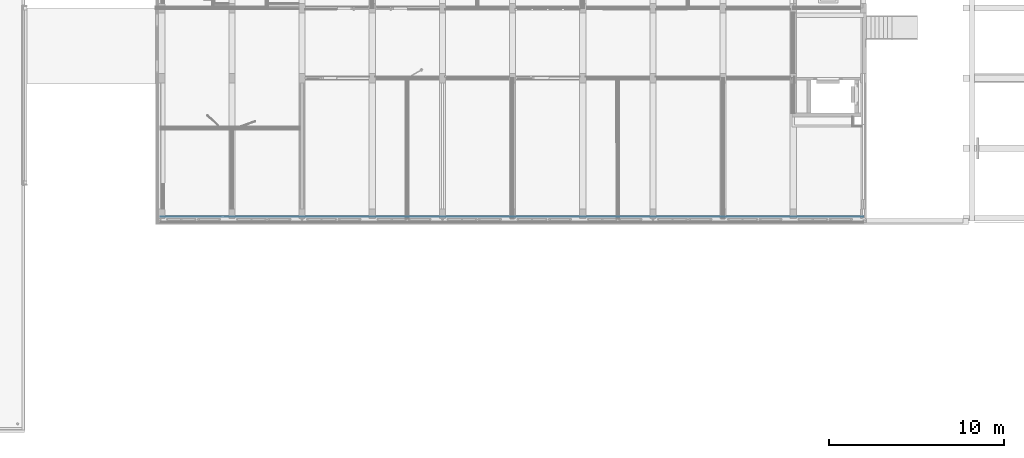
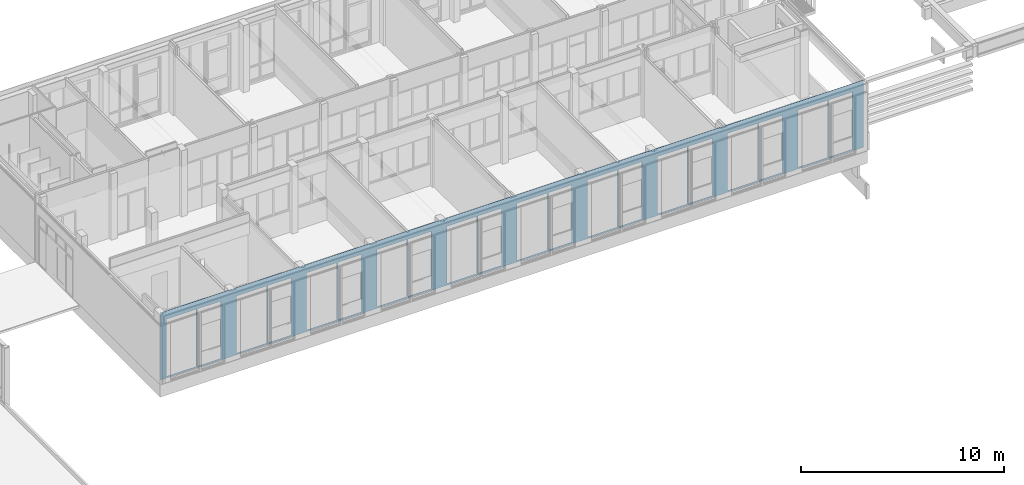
# One storey, part 30 of 54: 1 building element part, 20 openings, 1 element without a shape of its own.
"""IFC2X3 building model written with IfcOpenShell, lengths in millimetres."""

from ifc_helpers import new_model, entity, si_unit, converted_unit, derived_unit, money_unit, direction, frame, origin_with_axes, place, context, subcontext, project, spatial, faceted_brep, material, type_object, element, aggregate, save


model = new_model("IFC2X3")

# Units and contexts
model_context = context("Model", 3, precision=0.01, world=origin_with_axes(), true_north=direction((0.0, 1.0)))
body_context = subcontext(model_context, "Body", "Model", "MODEL_VIEW")
ifc_project = project(units=[si_unit("LENGTHUNIT", "METRE", prefix="MILLI"), si_unit("AREAUNIT", "SQUARE_METRE"), si_unit("VOLUMEUNIT", "CUBIC_METRE"), converted_unit("PLANEANGLEUNIT", "DEGREE", entity("IfcPlaneAngleMeasure", 0.0174532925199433), si_unit("PLANEANGLEUNIT", "RADIAN"), dimensions=[0, 0, 0, 0, 0, 0, 0]), money_unit("EUR"), converted_unit("TIMEUNIT", "Year", entity("IfcTimeMeasure", 31557600.0), si_unit("TIMEUNIT", "SECOND"), dimensions=[0, 0, 1, 0, 0, 0, 0]), si_unit("MASSUNIT", "GRAM", prefix="KILO"), si_unit("THERMODYNAMICTEMPERATUREUNIT", "DEGREE_CELSIUS"), si_unit("LUMINOUSINTENSITYUNIT", "LUMEN"), si_unit("ENERGYUNIT", "JOULE", prefix="MEGA"), derived_unit("THERMALCONDUCTANCEUNIT", [(si_unit("POWERUNIT", "WATT"), 1), (si_unit("LENGTHUNIT", "METRE"), -1), (si_unit("THERMODYNAMICTEMPERATUREUNIT", "KELVIN"), -1)]), derived_unit("SPECIFICHEATCAPACITYUNIT", [(si_unit("ENERGYUNIT", "JOULE"), 1), (si_unit("MASSUNIT", "GRAM", prefix="KILO"), -1), (si_unit("THERMODYNAMICTEMPERATUREUNIT", "KELVIN"), -1)]), derived_unit("MASSDENSITYUNIT", [(si_unit("MASSUNIT", "GRAM", prefix="KILO"), 1), (si_unit("VOLUMEUNIT", "CUBIC_METRE"), -1)])], contexts=[model_context])

# Site, building, storey
site_placement = place(None, origin_with_axes())
site = spatial("IfcSite", under=ifc_project, at=site_placement, Name="<site naam>", CompositionType="ELEMENT")
building_placement = place(site_placement, origin_with_axes())
building = spatial("IfcBuilding", under=site, at=building_placement, Name="<Naam gebouw>", CompositionType="ELEMENT")
storey_placement = place(building_placement, frame((0.0, 0.0, 8500.0), z_axis=(0.0, 0.0, 1.0), x_axis=(1.0, 0.0, 0.0)))
storey = spatial("IfcBuildingStorey", under=building, at=storey_placement, Name="02 2e verdieping", CompositionType="ELEMENT", Elevation=8500.0)

# Wall, openings, building element part
wall_type = type_object("IfcWallType", Name="HSB_285 gevelbeplating 420", PredefinedType="NOTDEFINED")
wall_placement = place(storey_placement, frame((52000.00000000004, -298.0000000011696, 0.0), z_axis=(0.0, 0.0, 1.0), x_axis=(-1.0, 0.0, 0.0)))
wall = element("IfcWall", 1, at=wall_placement, inside=storey, type_object=wall_type, Name="21_Binnenwand_HSB_285")
opening_1_placement = place(wall_placement, frame((38888.99998871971, 0.0, 99.99999999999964), z_axis=(0.0, 0.0, 1.0), x_axis=(1.0, 0.0, 0.0)))
element("IfcOpeningElement", 2, at=opening_1_placement, cuts=wall, Name="21_BU-A-22a_305", context=body_context, shape_type="Brep", body=[
    faceted_brep([(-850.9999999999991, -212.9999999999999, 0.0), (-850.9999999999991, -212.9999999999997, 3450.000000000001), (-850.9999999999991, 1.000000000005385, 3450.000000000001), (-850.9999999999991, 1.000000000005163, 0.0), (-850.9999999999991, -421.0000000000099, 0.0), (-850.9999999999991, -421.0000000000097, 3450.000000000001), (850.9999999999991, -212.9999999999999, 3450.000000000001), (851.0000000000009, 1.000000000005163, 3450.000000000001), (851.0000000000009, 1.000000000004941, 0.0), (850.9999999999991, -213.0000000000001, 0.0), (850.9999999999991, -421.00000000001, 0.0), (850.9999999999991, -421.0000000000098, 3450.000000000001)], [[[0, 1, 2, 3]], [[1, 0, 4, 5]], [[1, 6, 7, 2]], [[7, 8, 3, 2]], [[9, 0, 3, 8]], [[0, 9, 10, 4]], [[5, 4, 10, 11]], [[6, 1, 5, 11]], [[6, 9, 8, 7]], [[9, 6, 11, 10]]]),
])
opening_2_placement = place(wall_placement, frame((37298.99999999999, 0.0, 99.99999999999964), z_axis=(0.0, 0.0, 1.0), x_axis=(1.0, 0.0, 0.0)))
element("IfcOpeningElement", 3, at=opening_2_placement, cuts=wall, Name="21_BU-A-22b_305", context=body_context, shape_type="Brep", body=[
    faceted_brep([(-663.0000000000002, -212.9999999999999, 0.0), (-663.0000000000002, -212.9999999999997, 3450.000000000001), (-663.0000000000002, 1.000000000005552, 3450.000000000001), (-663.0000000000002, 1.00000000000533, 0.0), (-663.0000000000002, -421.0000000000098, 0.0), (-663.0000000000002, -421.0000000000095, 3450.000000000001), (663.0000000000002, -212.9999999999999, 3450.000000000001), (663.0000000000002, 1.000000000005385, 3450.000000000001), (663.0000000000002, 1.000000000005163, 0.0), (663.0000000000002, -213.0000000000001, 0.0), (663.0000000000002, -421.0000000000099, 0.0), (663.0000000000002, -421.0000000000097, 3450.000000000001)], [[[0, 1, 2, 3]], [[1, 0, 4, 5]], [[1, 6, 7, 2]], [[7, 8, 3, 2]], [[9, 0, 3, 8]], [[0, 9, 10, 4]], [[5, 4, 10, 11]], [[6, 1, 5, 11]], [[6, 9, 8, 7]], [[9, 6, 11, 10]]]),
])
opening_3_placement = place(wall_placement, frame((33298.99999999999, 0.0, 99.99999999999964), z_axis=(0.0, 0.0, 1.0), x_axis=(1.0, 0.0, 0.0)))
element("IfcOpeningElement", 4, at=opening_3_placement, cuts=wall, Name="21_BU-A-22b_305", context=body_context, shape_type="Brep", body=[
    faceted_brep([(-663.0000000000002, -212.9999999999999, 0.0), (-663.0000000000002, -212.9999999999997, 3450.000000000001), (-663.0000000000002, 1.000000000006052, 3450.000000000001), (-663.0000000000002, 1.00000000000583, 0.0), (-663.0000000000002, -421.0000000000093, 0.0), (-663.0000000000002, -421.000000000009, 3450.000000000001), (663.0000000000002, -212.9999999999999, 3450.000000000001), (663.0000000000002, 1.000000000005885, 3450.000000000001), (663.0000000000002, 1.000000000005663, 0.0), (663.0000000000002, -213.0000000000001, 0.0), (663.0000000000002, -421.0000000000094, 0.0), (663.0000000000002, -421.0000000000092, 3450.000000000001)], [[[0, 1, 2, 3]], [[1, 0, 4, 5]], [[1, 6, 7, 2]], [[7, 8, 3, 2]], [[9, 0, 3, 8]], [[0, 9, 10, 4]], [[5, 4, 10, 11]], [[6, 1, 5, 11]], [[6, 9, 8, 7]], [[9, 6, 11, 10]]]),
])
opening_4_placement = place(wall_placement, frame((34888.99998871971, 0.0, 99.99999999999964), z_axis=(0.0, 0.0, 1.0), x_axis=(1.0, 0.0, 0.0)))
element("IfcOpeningElement", 5, at=opening_4_placement, cuts=wall, Name="21_BU-A-22a_305", context=body_context, shape_type="Brep", body=[
    faceted_brep([(-850.9999999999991, -212.9999999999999, 0.0), (-850.9999999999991, -212.9999999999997, 3450.000000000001), (-850.9999999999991, 1.000000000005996, 3450.000000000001), (-850.9999999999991, 1.000000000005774, 0.0), (-850.9999999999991, -421.0000000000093, 0.0), (-850.9999999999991, -421.0000000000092, 3450.000000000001), (850.9999999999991, -212.9999999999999, 3450.000000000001), (850.9999999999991, 1.000000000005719, 3450.000000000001), (850.9999999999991, 1.000000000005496, 0.0), (850.9999999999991, -213.0000000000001, 0.0), (850.9999999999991, -421.0000000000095, 0.0), (850.9999999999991, -421.0000000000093, 3450.000000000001)], [[[0, 1, 2, 3]], [[1, 0, 4, 5]], [[1, 6, 7, 2]], [[7, 8, 3, 2]], [[9, 0, 3, 8]], [[0, 9, 10, 4]], [[5, 4, 10, 11]], [[6, 1, 5, 11]], [[6, 9, 8, 7]], [[9, 6, 11, 10]]]),
])
opening_5_placement = place(wall_placement, frame((18888.99998871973, 0.0, 99.99999999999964), z_axis=(0.0, 0.0, 1.0), x_axis=(1.0, 0.0, 0.0)))
element("IfcOpeningElement", 6, at=opening_5_placement, cuts=wall, Name="21_BU-A-22a_305", context=body_context, shape_type="Brep", body=[
    faceted_brep([(-850.9999999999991, -212.9999999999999, 0.0), (-850.9999999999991, -212.9999999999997, 3450.000000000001), (-850.9999999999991, 1.000000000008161, 3450.000000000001), (-850.9999999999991, 1.000000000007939, 0.0), (-850.9999999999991, -421.0000000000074, 0.0), (-850.9999999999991, -421.0000000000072, 3450.000000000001), (850.9999999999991, -212.9999999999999, 3450.000000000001), (850.9999999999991, 1.000000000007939, 3450.000000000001), (850.9999999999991, 1.000000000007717, 0.0), (850.9999999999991, -213.0000000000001, 0.0), (850.9999999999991, -421.0000000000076, 0.0), (850.9999999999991, -421.0000000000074, 3450.000000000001)], [[[0, 1, 2, 3]], [[1, 0, 4, 5]], [[1, 6, 7, 2]], [[7, 8, 3, 2]], [[9, 0, 3, 8]], [[0, 9, 10, 4]], [[5, 4, 10, 11]], [[6, 1, 5, 11]], [[6, 9, 8, 7]], [[9, 6, 11, 10]]]),
])
opening_6_placement = place(wall_placement, frame((22888.98053643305, 0.0, 99.99999999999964), z_axis=(0.0, 0.0, 1.0), x_axis=(1.0, 0.0, 0.0)))
element("IfcOpeningElement", 7, at=opening_6_placement, cuts=wall, Name="21_BU-A-22a_305", context=body_context, shape_type="Brep", body=[
    faceted_brep([(-850.9999999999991, -212.9999999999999, 0.0), (-850.9999999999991, -212.9999999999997, 3450.000000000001), (-850.9999999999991, 1.000000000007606, 3450.000000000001), (-850.9999999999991, 1.000000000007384, 0.0), (-850.9999999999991, -421.0000000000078, 0.0), (-850.9999999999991, -421.0000000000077, 3450.000000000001), (850.9999999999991, -212.9999999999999, 3450.000000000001), (850.9999999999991, 1.000000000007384, 3450.000000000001), (850.9999999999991, 1.000000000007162, 0.0), (850.9999999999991, -213.0000000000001, 0.0), (850.9999999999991, -421.0000000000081, 0.0), (850.9999999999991, -421.0000000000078, 3450.000000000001)], [[[0, 1, 2, 3]], [[1, 0, 4, 5]], [[1, 6, 7, 2]], [[7, 8, 3, 2]], [[9, 0, 3, 8]], [[0, 9, 10, 4]], [[5, 4, 10, 11]], [[6, 1, 5, 11]], [[6, 9, 8, 7]], [[9, 6, 11, 10]]]),
])
opening_7_placement = place(wall_placement, frame((17299.00000000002, 0.0, 99.99999999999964), z_axis=(0.0, 0.0, 1.0), x_axis=(1.0, 0.0, 0.0)))
element("IfcOpeningElement", 8, at=opening_7_placement, cuts=wall, Name="21_BU-A-22b_305", context=body_context, shape_type="Brep", body=[
    faceted_brep([(-662.9999999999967, -212.9999999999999, 0.0), (-662.9999999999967, -212.9999999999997, 3450.000000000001), (-662.9999999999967, 1.000000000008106, 3450.000000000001), (-662.9999999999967, 1.000000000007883, 0.0), (-662.9999999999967, -421.0000000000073, 0.0), (-662.9999999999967, -421.000000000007, 3450.000000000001), (662.9999999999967, -212.9999999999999, 3450.000000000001), (662.9999999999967, 1.000000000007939, 3450.000000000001), (662.9999999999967, 1.000000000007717, 0.0), (662.9999999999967, -213.0000000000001, 0.0), (662.9999999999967, -421.0000000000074, 0.0), (662.9999999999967, -421.0000000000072, 3450.000000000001)], [[[0, 1, 2, 3]], [[1, 0, 4, 5]], [[1, 6, 7, 2]], [[7, 8, 3, 2]], [[9, 0, 3, 8]], [[0, 9, 10, 4]], [[5, 4, 10, 11]], [[6, 1, 5, 11]], [[6, 9, 8, 7]], [[9, 6, 11, 10]]]),
])
opening_8_placement = place(wall_placement, frame((26888.98052515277, 0.0, 99.99999999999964), z_axis=(0.0, 0.0, 1.0), x_axis=(1.0, 0.0, 0.0)))
element("IfcOpeningElement", 9, at=opening_8_placement, cuts=wall, Name="21_BU-A-22a_305", context=body_context, shape_type="Brep", body=[
    faceted_brep([(-850.9999999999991, -212.9999999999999, 0.0), (-850.9999999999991, -212.9999999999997, 3450.000000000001), (-850.9999999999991, 1.000000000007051, 3450.000000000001), (-850.9999999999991, 1.000000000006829, 0.0), (-850.9999999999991, -421.0000000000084, 0.0), (-850.9999999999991, -421.0000000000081, 3450.000000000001), (850.9999999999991, -212.9999999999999, 3450.000000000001), (850.9999999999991, 1.000000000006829, 3450.000000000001), (850.9999999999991, 1.000000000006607, 0.0), (850.9999999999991, -213.0000000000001, 0.0), (850.9999999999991, -421.0000000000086, 0.0), (850.9999999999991, -421.0000000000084, 3450.000000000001)], [[[0, 1, 2, 3]], [[1, 0, 4, 5]], [[1, 6, 7, 2]], [[7, 8, 3, 2]], [[9, 0, 3, 8]], [[0, 9, 10, 4]], [[5, 4, 10, 11]], [[6, 1, 5, 11]], [[6, 9, 8, 7]], [[9, 6, 11, 10]]]),
])
opening_9_placement = place(wall_placement, frame((21298.98054771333, 0.0, 99.99999999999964), z_axis=(0.0, 0.0, 1.0), x_axis=(1.0, 0.0, 0.0)))
element("IfcOpeningElement", 10, at=opening_9_placement, cuts=wall, Name="21_BU-A-22b_305", context=body_context, shape_type="Brep", body=[
    faceted_brep([(-663.0000000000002, -212.9999999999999, 0.0), (-663.0000000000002, -212.9999999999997, 3450.000000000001), (-663.0000000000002, 1.000000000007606, 3450.000000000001), (-663.0000000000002, 1.000000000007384, 0.0), (-663.0000000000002, -421.0000000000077, 0.0), (-663.0000000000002, -421.0000000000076, 3450.000000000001), (663.0000000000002, -212.9999999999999, 3450.000000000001), (663.0000000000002, 1.000000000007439, 3450.000000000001), (663.0000000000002, 1.000000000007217, 0.0), (663.0000000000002, -213.0000000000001, 0.0), (663.0000000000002, -421.0000000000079, 0.0), (663.0000000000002, -421.0000000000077, 3450.000000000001)], [[[0, 1, 2, 3]], [[1, 0, 4, 5]], [[1, 6, 7, 2]], [[7, 8, 3, 2]], [[9, 0, 3, 8]], [[0, 9, 10, 4]], [[5, 4, 10, 11]], [[6, 1, 5, 11]], [[6, 9, 8, 7]], [[9, 6, 11, 10]]]),
])
opening_10_placement = place(wall_placement, frame((10889.00000000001, 0.0, 99.99999999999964), z_axis=(0.0, 0.0, 1.0), x_axis=(1.0, 0.0, 0.0)))
element("IfcOpeningElement", 11, at=opening_10_placement, cuts=wall, Name="21_BU-A-22a_305", context=body_context, shape_type="Brep", body=[
    faceted_brep([(-850.9999999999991, -212.9999999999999, 0.0), (-850.9999999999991, -212.9999999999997, 3450.000000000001), (-850.9999999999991, 1.000000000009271, 3450.000000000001), (-850.9999999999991, 1.000000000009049, 0.0), (-850.9999999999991, -421.0000000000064, 0.0), (-850.9999999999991, -421.0000000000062, 3450.000000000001), (850.9999999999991, -212.9999999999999, 3450.000000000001), (850.9999999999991, 1.000000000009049, 3450.000000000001), (850.9999999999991, 1.000000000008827, 0.0), (850.9999999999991, -213.0000000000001, 0.0), (850.9999999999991, -421.0000000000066, 0.0), (850.9999999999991, -421.0000000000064, 3450.000000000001)], [[[0, 1, 2, 3]], [[1, 0, 4, 5]], [[1, 6, 7, 2]], [[7, 8, 3, 2]], [[9, 0, 3, 8]], [[0, 9, 10, 4]], [[5, 4, 10, 11]], [[6, 1, 5, 11]], [[6, 9, 8, 7]], [[9, 6, 11, 10]]]),
])
opening_11_placement = place(wall_placement, frame((25298.98053643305, 0.0, 99.99999999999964), z_axis=(0.0, 0.0, 1.0), x_axis=(1.0, 0.0, 0.0)))
element("IfcOpeningElement", 12, at=opening_11_placement, cuts=wall, Name="21_BU-A-22b_305", context=body_context, shape_type="Brep", body=[
    faceted_brep([(-663.0000000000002, -212.9999999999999, 0.0), (-663.0000000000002, -212.9999999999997, 3450.000000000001), (-663.0000000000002, 1.000000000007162, 3450.000000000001), (-663.0000000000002, 1.00000000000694, 0.0), (-663.0000000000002, -421.0000000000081, 0.0), (-663.0000000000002, -421.000000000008, 3450.000000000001), (663.0000000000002, -212.9999999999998, 3450.000000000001), (663.0000000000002, 1.000000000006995, 3450.000000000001), (663.0000000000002, 1.000000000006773, 0.0), (663.0000000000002, -213.0000000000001, 0.0), (663.0000000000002, -421.0000000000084, 0.0), (663.0000000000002, -421.0000000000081, 3450.000000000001)], [[[0, 1, 2, 3]], [[1, 0, 4, 5]], [[1, 6, 7, 2]], [[7, 8, 3, 2]], [[9, 0, 3, 8]], [[0, 9, 10, 4]], [[5, 4, 10, 11]], [[6, 1, 5, 11]], [[6, 9, 8, 7]], [[9, 6, 11, 10]]]),
])
opening_12_placement = place(wall_placement, frame((9299.000011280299, 0.0, 99.99999999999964), z_axis=(0.0, 0.0, 1.0), x_axis=(1.0, 0.0, 0.0)))
element("IfcOpeningElement", 13, at=opening_12_placement, cuts=wall, Name="21_BU-A-22b_305", context=body_context, shape_type="Brep", body=[
    faceted_brep([(-662.9999999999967, -212.9999999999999, 0.0), (-662.9999999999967, -212.9999999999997, 3450.000000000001), (-662.9999999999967, 1.00000000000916, 3450.000000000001), (-662.9999999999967, 1.000000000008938, 0.0), (-662.9999999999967, -421.0000000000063, 0.0), (-662.9999999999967, -421.000000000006, 3450.000000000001), (662.9999999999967, -212.9999999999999, 3450.000000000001), (662.9999999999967, 1.000000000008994, 3450.000000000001), (662.9999999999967, 1.000000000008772, 0.0), (662.9999999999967, -213.0000000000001, 0.0), (662.9999999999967, -421.0000000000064, 0.0), (662.9999999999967, -421.0000000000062, 3450.000000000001)], [[[0, 1, 2, 3]], [[1, 0, 4, 5]], [[1, 6, 7, 2]], [[7, 8, 3, 2]], [[9, 0, 3, 8]], [[0, 9, 10, 4]], [[5, 4, 10, 11]], [[6, 1, 5, 11]], [[6, 9, 8, 7]], [[9, 6, 11, 10]]]),
])
opening_13_placement = place(wall_placement, frame((5299.000011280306, 0.0, 99.99999999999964), z_axis=(0.0, 0.0, 1.0), x_axis=(1.0, 0.0, 0.0)))
element("IfcOpeningElement", 14, at=opening_13_placement, cuts=wall, Name="21_BU-A-22b_305", context=body_context, shape_type="Brep", body=[
    faceted_brep([(-662.9999999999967, -212.9999999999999, 0.0), (-662.9999999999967, -212.9999999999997, 3450.000000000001), (-662.9999999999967, 1.000000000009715, 3450.000000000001), (-662.9999999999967, 1.000000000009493, 0.0), (-662.9999999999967, -421.0000000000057, 0.0), (-662.9999999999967, -421.0000000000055, 3450.000000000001), (662.9999999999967, -212.9999999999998, 3450.000000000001), (662.9999999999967, 1.000000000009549, 3450.000000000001), (662.9999999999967, 1.000000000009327, 0.0), (662.9999999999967, -213.0, 0.0), (662.9999999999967, -421.0000000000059, 0.0), (662.9999999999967, -421.0000000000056, 3450.000000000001)], [[[0, 1, 2, 3]], [[1, 0, 4, 5]], [[1, 6, 7, 2]], [[7, 8, 3, 2]], [[9, 0, 3, 8]], [[0, 9, 10, 4]], [[5, 4, 10, 11]], [[6, 1, 5, 11]], [[6, 9, 8, 7]], [[9, 6, 11, 10]]]),
])
opening_14_placement = place(wall_placement, frame((2889.000000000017, 0.0, 99.99999999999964), z_axis=(0.0, 0.0, 1.0), x_axis=(1.0, 0.0, 0.0)))
element("IfcOpeningElement", 15, at=opening_14_placement, cuts=wall, Name="21_BU-A-22a_305", context=body_context, shape_type="Brep", body=[
    faceted_brep([(-850.9999999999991, -212.9999999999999, 0.0), (-850.9999999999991, -212.9999999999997, 3450.000000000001), (-850.9999999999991, 1.000000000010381, 3450.000000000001), (-850.9999999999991, 1.000000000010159, 0.0), (-850.9999999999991, -421.0000000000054, 0.0), (-850.9999999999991, -421.0000000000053, 3450.000000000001), (850.9999999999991, -212.9999999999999, 3450.000000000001), (850.9999999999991, 1.000000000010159, 3450.000000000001), (850.9999999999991, 1.000000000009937, 0.0), (850.9999999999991, -213.0000000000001, 0.0), (850.9999999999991, -421.0000000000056, 0.0), (850.9999999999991, -421.0000000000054, 3450.000000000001)], [[[0, 1, 2, 3]], [[1, 0, 4, 5]], [[1, 6, 7, 2]], [[7, 8, 3, 2]], [[9, 0, 3, 8]], [[0, 9, 10, 4]], [[5, 4, 10, 11]], [[6, 1, 5, 11]], [[6, 9, 8, 7]], [[9, 6, 11, 10]]]),
])
opening_15_placement = place(wall_placement, frame((6889.000000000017, 0.0, 99.99999999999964), z_axis=(0.0, 0.0, 1.0), x_axis=(1.0, 0.0, 0.0)))
element("IfcOpeningElement", 16, at=opening_15_placement, cuts=wall, Name="21_BU-A-22a_305", context=body_context, shape_type="Brep", body=[
    faceted_brep([(-850.9999999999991, -212.9999999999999, 0.0), (-850.9999999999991, -212.9999999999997, 3450.000000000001), (-850.9999999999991, 1.000000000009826, 3450.000000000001), (-850.9999999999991, 1.000000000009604, 0.0), (-850.9999999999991, -421.0000000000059, 0.0), (-850.9999999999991, -421.0000000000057, 3450.000000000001), (850.9999999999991, -212.9999999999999, 3450.000000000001), (850.9999999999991, 1.000000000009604, 3450.000000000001), (850.9999999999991, 1.000000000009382, 0.0), (850.9999999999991, -213.0000000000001, 0.0), (850.9999999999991, -421.0000000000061, 0.0), (850.9999999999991, -421.0000000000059, 3450.000000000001)], [[[0, 1, 2, 3]], [[1, 0, 4, 5]], [[1, 6, 7, 2]], [[7, 8, 3, 2]], [[9, 0, 3, 8]], [[0, 9, 10, 4]], [[5, 4, 10, 11]], [[6, 1, 5, 11]], [[6, 9, 8, 7]], [[9, 6, 11, 10]]]),
])
opening_16_placement = place(wall_placement, frame((1299.000011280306, 0.0, 99.99999999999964), z_axis=(0.0, 0.0, 1.0), x_axis=(1.0, 0.0, 0.0)))
element("IfcOpeningElement", 17, at=opening_16_placement, cuts=wall, Name="21_BU-A-22b_305", context=body_context, shape_type="Brep", body=[
    faceted_brep([(-662.9999999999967, -212.9999999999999, 0.0), (-662.9999999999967, -212.9999999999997, 3450.000000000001), (-662.9999999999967, 1.000000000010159, 3450.000000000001), (-662.9999999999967, 1.000000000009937, 0.0), (-662.9999999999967, -421.0000000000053, 0.0), (-662.9999999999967, -421.0000000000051, 3450.000000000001), (662.9999999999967, -212.9999999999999, 3450.000000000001), (662.9999999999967, 1.000000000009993, 3450.000000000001), (662.9999999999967, 1.000000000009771, 0.0), (662.9999999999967, -213.0000000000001, 0.0), (662.9999999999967, -421.0000000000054, 0.0), (662.9999999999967, -421.0000000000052, 3450.000000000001)], [[[0, 1, 2, 3]], [[1, 0, 4, 5]], [[1, 6, 7, 2]], [[7, 8, 3, 2]], [[9, 0, 3, 8]], [[0, 9, 10, 4]], [[5, 4, 10, 11]], [[6, 1, 5, 11]], [[6, 9, 8, 7]], [[9, 6, 11, 10]]]),
])
opening_17_placement = place(wall_placement, frame((14889.00000000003, 0.0, 99.99999999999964), z_axis=(0.0, 0.0, 1.0), x_axis=(1.0, 0.0, 0.0)))
element("IfcOpeningElement", 18, at=opening_17_placement, cuts=wall, Name="21_BU-A-22a_305", context=body_context, shape_type="Brep", body=[
    faceted_brep([(-850.9999999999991, -212.9999999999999, 0.0), (-850.9999999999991, -212.9999999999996, 3450.000000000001), (-850.9999999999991, 1.000000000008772, 3450.000000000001), (-850.9999999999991, 1.00000000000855, 0.0), (-850.9999999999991, -421.0000000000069, 0.0), (-850.9999999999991, -421.0000000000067, 3450.000000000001), (850.9999999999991, -212.9999999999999, 3450.000000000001), (850.9999999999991, 1.000000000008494, 3450.000000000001), (850.9999999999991, 1.000000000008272, 0.0), (850.9999999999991, -213.0000000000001, 0.0), (850.9999999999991, -421.0000000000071, 0.0), (850.9999999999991, -421.0000000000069, 3450.000000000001)], [[[0, 1, 2, 3]], [[1, 0, 4, 5]], [[1, 6, 7, 2]], [[7, 8, 3, 2]], [[9, 0, 3, 8]], [[0, 9, 10, 4]], [[5, 4, 10, 11]], [[6, 1, 5, 11]], [[6, 9, 8, 7]], [[9, 6, 11, 10]]]),
])
opening_18_placement = place(wall_placement, frame((13299.00001128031, 0.0, 99.99999999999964), z_axis=(0.0, 0.0, 1.0), x_axis=(1.0, 0.0, 0.0)))
element("IfcOpeningElement", 19, at=opening_18_placement, cuts=wall, Name="21_BU-A-22b_305", context=body_context, shape_type="Brep", body=[
    faceted_brep([(-662.9999999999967, -212.9999999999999, 0.0), (-662.9999999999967, -212.9999999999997, 3450.000000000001), (-662.9999999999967, 1.000000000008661, 3450.000000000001), (-662.9999999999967, 1.000000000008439, 0.0), (-662.9999999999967, -421.0000000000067, 0.0), (-662.9999999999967, -421.0000000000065, 3450.000000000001), (662.9999999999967, -212.9999999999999, 3450.000000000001), (662.9999999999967, 1.000000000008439, 3450.000000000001), (662.9999999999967, 1.000000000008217, 0.0), (662.9999999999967, -213.0000000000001, 0.0), (662.9999999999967, -421.0000000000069, 0.0), (662.9999999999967, -421.0000000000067, 3450.000000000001)], [[[0, 1, 2, 3]], [[1, 0, 4, 5]], [[1, 6, 7, 2]], [[7, 8, 3, 2]], [[9, 0, 3, 8]], [[0, 9, 10, 4]], [[5, 4, 10, 11]], [[6, 1, 5, 11]], [[6, 9, 8, 7]], [[9, 6, 11, 10]]]),
])
opening_19_placement = place(wall_placement, frame((30889.0499771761, 0.0, 99.99999999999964), z_axis=(0.0, 0.0, 1.0), x_axis=(1.0, 0.0, 0.0)))
element("IfcOpeningElement", 20, at=opening_19_placement, cuts=wall, Name="21_BU-A-22a_305", context=body_context, shape_type="Brep", body=[
    faceted_brep([(-850.9999999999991, -212.9999999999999, 0.0), (-850.9999999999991, -212.9999999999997, 3450.000000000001), (-850.9999999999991, 1.000000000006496, 3450.000000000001), (-850.9999999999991, 1.000000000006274, 0.0), (-850.9999999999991, -421.0000000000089, 0.0), (-850.9999999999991, -421.0000000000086, 3450.000000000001), (850.9999999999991, -212.9999999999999, 3450.000000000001), (850.9999999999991, 1.000000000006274, 3450.000000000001), (850.9999999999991, 1.000000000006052, 0.0), (850.9999999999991, -213.0000000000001, 0.0), (850.9999999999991, -421.0000000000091, 0.0), (850.9999999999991, -421.0000000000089, 3450.000000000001)], [[[0, 1, 2, 3]], [[1, 0, 4, 5]], [[1, 6, 7, 2]], [[7, 8, 3, 2]], [[9, 0, 3, 8]], [[0, 9, 10, 4]], [[5, 4, 10, 11]], [[6, 1, 5, 11]], [[6, 9, 8, 7]], [[9, 6, 11, 10]]]),
])
opening_20_placement = place(wall_placement, frame((29299.04998845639, 0.0, 99.99999999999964), z_axis=(0.0, 0.0, 1.0), x_axis=(1.0, 0.0, 0.0)))
element("IfcOpeningElement", 21, at=opening_20_placement, cuts=wall, Name="21_BU-A-22b_305", context=body_context, shape_type="Brep", body=[
    faceted_brep([(-663.0000000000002, -212.9999999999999, 0.0), (-663.0000000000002, -212.9999999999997, 3450.000000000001), (-663.0000000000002, 1.000000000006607, 3450.000000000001), (-663.0000000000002, 1.000000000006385, 0.0), (-663.0000000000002, -421.0000000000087, 0.0), (-663.0000000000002, -421.0000000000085, 3450.000000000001), (663.0000000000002, -212.9999999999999, 3450.000000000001), (663.0000000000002, 1.00000000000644, 3450.000000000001), (663.0000000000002, 1.000000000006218, 0.0), (663.0000000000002, -213.0000000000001, 0.0), (663.0000000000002, -421.0000000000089, 0.0), (663.0000000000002, -421.0000000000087, 3450.000000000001)], [[[0, 1, 2, 3]], [[1, 0, 4, 5]], [[1, 6, 7, 2]], [[7, 8, 3, 2]], [[9, 0, 3, 8]], [[0, 9, 10, 4]], [[5, 4, 10, 11]], [[6, 1, 5, 11]], [[6, 9, 8, 7]], [[9, 6, 11, 10]]]),
])
ifc_material = material(Name="hout_OSB")
building_element_part_placement = place(wall_placement, origin_with_axes())
building_element_part = element("IfcBuildingElementPart", 22, at=building_element_part_placement, material=ifc_material, Name="hout_OSB", context=body_context, shape_type="Brep", body=[
    faceted_brep([(13925.02697398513, -407.4999999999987, 3.000000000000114), (13925.02697398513, -407.4999999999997, 0.0), (14076.23975822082, -407.4999999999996, 0.0), (14076.23975822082, -407.4999999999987, 3.000000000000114), (15825.00000534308, -407.4999999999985, 3.000000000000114), (15825.00000534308, -407.4999999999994, 0.0), (16174.99997236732, -407.4999999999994, 0.0), (16174.99997236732, -407.4999999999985, 3.000000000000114), (19825.00020866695, -407.499999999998, 3.000000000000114), (19825.00020866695, -407.4999999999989, 0.0), (20174.99995864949, -407.4999999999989, 0.0), (20174.99995864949, -407.4999999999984, 3.000000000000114), (23824.99995976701, -407.4999999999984, 3.000000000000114), (23824.99995976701, -407.5000000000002, 0.0), (24174.98053496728, -407.5000000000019, 0.0), (24174.98053496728, -407.4999999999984, 3.000000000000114), (25926.25096336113, -407.4999999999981, 3.000000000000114), (25926.25096336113, -407.4999999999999, 0.0), (32075.00004027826, -407.4999999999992, 0.0), (32075.00004027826, -407.4999999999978, 3.000000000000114), (39849.99994075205, -407.4999999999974, 3.000000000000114), (39849.99994075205, -407.4999999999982, 0.0), (40065.00000000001, -407.4999999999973, 0.0), (40065.00000000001, -407.4999999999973, 4050.000000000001), (0.0, -407.4999999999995, 4050.000000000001), (0.0, -407.5, 0.0), (135.0000514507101, -407.5000000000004, 0.0), (135.0000514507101, -407.4999999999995, 3.000000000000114), (3825.000117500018, -407.5, 3.000000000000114), (3825.000117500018, -407.5, 0.0), (4174.999990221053, -407.4999999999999, 0.0), (4174.999990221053, -407.4999999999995, 3.000000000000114), (7824.999919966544, -407.4999999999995, 3.000000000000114), (7824.999919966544, -407.5000000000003, 0.0), (8174.999918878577, -407.5000000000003, 0.0), (8174.999918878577, -407.499999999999, 3.000000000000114), (11824.99997859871, -407.499999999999, 3.000000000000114), (11824.99997859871, -407.4999999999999, 0.0), (12174.99994562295, -407.4999999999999, 0.0), (12174.99994562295, -407.499999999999, 3.000000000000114), (13925.02697398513, -392.4999999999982, 3.000000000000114), (13925.02697398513, -392.4999999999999, 0.0), (14076.23975822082, -392.4999999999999, 0.0), (14076.23975822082, -392.4999999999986, 3.000000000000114), (15825.00000534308, -392.499999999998, 3.000000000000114), (15825.00000534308, -392.4999999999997, 0.0), (16174.99997236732, -392.4999999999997, 0.0), (16174.99997236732, -392.4999999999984, 3.000000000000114), (19825.00020866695, -392.4999999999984, 3.000000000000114), (19825.00020866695, -392.4999999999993, 0.0), (20174.99995864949, -392.4999999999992, 0.0), (20174.99995864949, -392.4999999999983, 3.000000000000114), (23824.99995976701, -392.4999999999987, 3.000000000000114), (23824.99995976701, -392.5000000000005, 0.0), (24174.98053496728, -392.5000000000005, 0.0), (24174.98053496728, -392.4999999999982, 3.000000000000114), (25926.25096336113, -392.4999999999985, 3.000000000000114), (25926.25096336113, -392.5000000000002, 0.0), (32075.00003674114, -392.5000000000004, 0.0), (32075.00003674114, -392.4999999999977, 3.000000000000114), (39849.99994075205, -392.4999999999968, 3.000000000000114), (39849.99994075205, -392.4999999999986, 0.0), (40065.00000000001, -392.4999999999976, 0.0), (40065.00000000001, -392.4999999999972, 4050.000000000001), (0.0, -392.4999999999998, 4050.000000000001), (0.0, -392.4999999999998, 0.0), (135.0000514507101, -392.4999999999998, 0.0), (135.0000514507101, -392.4999999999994, 3.000000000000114), (3825.000117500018, -392.4999999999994, 3.000000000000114), (3825.000117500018, -392.5000000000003, 0.0), (4174.999990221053, -392.5000000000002, 0.0), (4174.999990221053, -392.4999999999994, 3.000000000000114), (7824.999919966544, -392.4999999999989, 3.000000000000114), (7824.999919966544, -392.4999999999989, 0.0), (8174.999918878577, -392.4999999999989, 0.0), (8174.999918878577, -392.4999999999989, 3.000000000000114), (11824.99997859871, -392.4999999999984, 3.000000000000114), (11824.99997859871, -392.4999999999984, 0.0), (12174.99994562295, -392.4999999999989, 0.0), (12174.99994562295, -392.4999999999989, 3.000000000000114)], [[[0, 1, 2, 3, 4, 5, 6, 7, 8, 9, 10, 11, 12, 13, 14, 15, 16, 17, 18, 19, 20, 21, 22, 23, 24, 25, 26, 27, 28, 29, 30, 31, 32, 33, 34, 35, 36, 37, 38, 39]], [[1, 0, 40, 41]], [[1, 41, 42, 2]], [[3, 2, 42, 43]], [[4, 3, 43, 44]], [[5, 4, 44, 45]], [[46, 6, 5, 45]], [[7, 6, 46, 47]], [[8, 7, 47, 48]], [[9, 8, 48, 49]], [[50, 10, 9, 49]], [[11, 10, 50, 51]], [[12, 11, 51, 52]], [[13, 12, 52, 53]], [[54, 14, 13, 53]], [[15, 14, 54, 55]], [[16, 15, 55, 56]], [[17, 16, 56, 57]], [[17, 57, 58, 18]], [[19, 18, 58, 59]], [[20, 19, 59, 60]], [[21, 20, 60, 61]], [[21, 61, 62, 22]], [[63, 23, 22, 62]], [[24, 23, 63, 64]], [[25, 24, 64, 65]], [[66, 26, 25, 65]], [[27, 26, 66, 67]], [[28, 27, 67, 68]], [[29, 28, 68, 69]], [[70, 30, 29, 69]], [[31, 30, 70, 71]], [[32, 31, 71, 72]], [[33, 32, 72, 73]], [[74, 34, 33, 73]], [[35, 34, 74, 75]], [[36, 35, 75, 76]], [[37, 36, 76, 77]], [[78, 38, 37, 77]], [[39, 38, 78, 79]], [[0, 39, 79, 40]], [[79, 78, 77, 76, 75, 74, 73, 72, 71, 70, 69, 68, 67, 66, 65, 64, 63, 62, 61, 60, 59, 58, 57, 56, 55, 54, 53, 52, 51, 50, 49, 48, 47, 46, 45, 44, 43, 42, 41, 40]]]),
])
aggregate(wall, [building_element_part])

save(model, "model.ifc")
